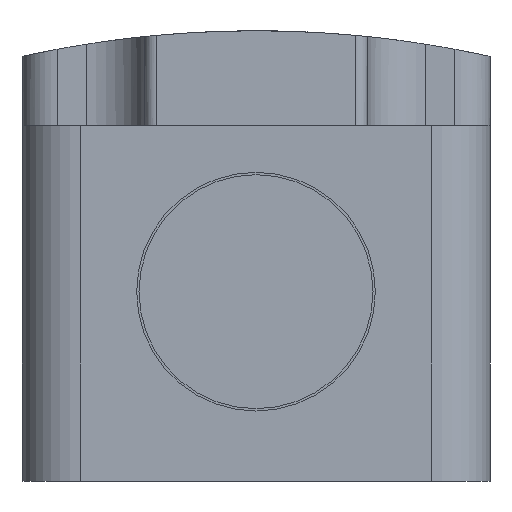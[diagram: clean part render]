
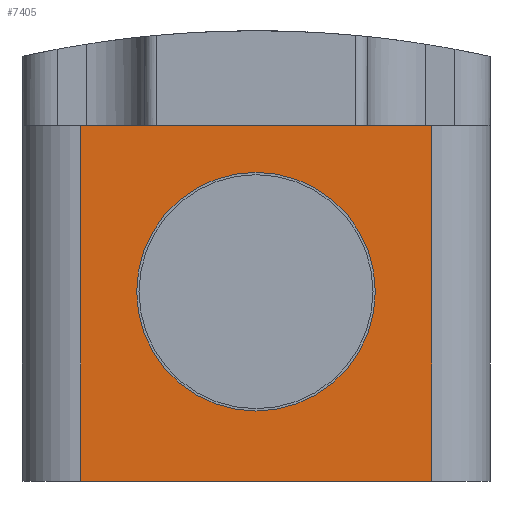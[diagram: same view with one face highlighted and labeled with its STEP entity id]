
A CAD part, front view. The second image highlights one B-rep face of the part: STEP entity #7405.
In plain terms, the highlighted planar face has unit normal (0, -1, 0).
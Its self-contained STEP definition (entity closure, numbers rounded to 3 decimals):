
#176 = AXIS2_PLACEMENT_3D ( 'NONE', #7772, #17473, #9214 ) ;
#244 = ORIENTED_EDGE ( 'NONE', *, *, #2194, .T. ) ;
#260 = EDGE_CURVE ( 'NONE', #10775, #13907, #2853, .T. ) ;
#472 = ORIENTED_EDGE ( 'NONE', *, *, #3886, .F. ) ;
#868 = DIRECTION ( 'NONE',  ( 1., 0., 0. ) ) ;
#1095 = CIRCLE ( 'NONE', #17822, 10.2 ) ;
#1963 = VECTOR ( 'NONE', #12411, 1000. ) ;
#2088 = EDGE_CURVE ( 'NONE', #16360, #8824, #1095, .T. ) ;
#2194 = EDGE_CURVE ( 'NONE', #8390, #13907, #14134, .T. ) ;
#2630 = CARTESIAN_POINT ( 'NONE',  ( 0., -66., 0. ) ) ;
#2853 = LINE ( 'NONE', #14100, #1963 ) ;
#2992 = CARTESIAN_POINT ( 'NONE',  ( 20., -66., -16.2 ) ) ;
#3886 = EDGE_CURVE ( 'NONE', #8824, #16360, #12843, .T. ) ;
#4027 = DIRECTION ( 'NONE',  ( 0., 0., -1. ) ) ;
#4693 = FACE_OUTER_BOUND ( 'NONE', #16791, .T. ) ;
#4902 = LINE ( 'NONE', #9137, #15117 ) ;
#5085 = CARTESIAN_POINT ( 'NONE',  ( -15., -66., 14.2 ) ) ;
#5840 = PLANE ( 'NONE',  #6018 ) ;
#6018 = AXIS2_PLACEMENT_3D ( 'NONE', #2992, #15561, #7253 ) ;
#7124 = CARTESIAN_POINT ( 'NONE',  ( -15., -66., -16.2 ) ) ;
#7253 = DIRECTION ( 'NONE',  ( 0., 0., -1. ) ) ;
#7405 = ADVANCED_FACE ( 'NONE', ( #15346, #4693 ), #5840, .T. ) ;
#7669 = CARTESIAN_POINT ( 'NONE',  ( -15., -66., -16.2 ) ) ;
#7772 = CARTESIAN_POINT ( 'NONE',  ( 0., -66., 0. ) ) ;
#7826 = CARTESIAN_POINT ( 'NONE',  ( 0., -66., -10.2 ) ) ;
#8390 = VERTEX_POINT ( 'NONE', #16965 ) ;
#8708 = CARTESIAN_POINT ( 'NONE',  ( 0., -66., 10.2 ) ) ;
#8824 = VERTEX_POINT ( 'NONE', #7826 ) ;
#9053 = ORIENTED_EDGE ( 'NONE', *, *, #260, .F. ) ;
#9122 = DIRECTION ( 'NONE',  ( 0., 0., -1. ) ) ;
#9137 = CARTESIAN_POINT ( 'NONE',  ( 20., -66., -16.2 ) ) ;
#9214 = DIRECTION ( 'NONE',  ( 0., 0., -1. ) ) ;
#10533 = ORIENTED_EDGE ( 'NONE', *, *, #13845, .T. ) ;
#10775 = VERTEX_POINT ( 'NONE', #5085 ) ;
#11235 = EDGE_LOOP ( 'NONE', ( #472, #16130 ) ) ;
#11378 = VECTOR ( 'NONE', #15442, 1000. ) ;
#11656 = ORIENTED_EDGE ( 'NONE', *, *, #14281, .T. ) ;
#12408 = DIRECTION ( 'NONE',  ( 0., -1., 0. ) ) ;
#12411 = DIRECTION ( 'NONE',  ( 1., 0., 0. ) ) ;
#12843 = CIRCLE ( 'NONE', #176, 10.2 ) ;
#13845 = EDGE_CURVE ( 'NONE', #15416, #8390, #4902, .T. ) ;
#13907 = VERTEX_POINT ( 'NONE', #17756 ) ;
#14031 = LINE ( 'NONE', #7669, #17717 ) ;
#14100 = CARTESIAN_POINT ( 'NONE',  ( 20., -66., 14.2 ) ) ;
#14134 = LINE ( 'NONE', #16787, #11378 ) ;
#14281 = EDGE_CURVE ( 'NONE', #10775, #15416, #14031, .T. ) ;
#15117 = VECTOR ( 'NONE', #868, 1000. ) ;
#15346 = FACE_BOUND ( 'NONE', #11235, .T. ) ;
#15416 = VERTEX_POINT ( 'NONE', #7124 ) ;
#15442 = DIRECTION ( 'NONE',  ( 0., 0., 1. ) ) ;
#15561 = DIRECTION ( 'NONE',  ( 0., -1., 0. ) ) ;
#16130 = ORIENTED_EDGE ( 'NONE', *, *, #2088, .F. ) ;
#16360 = VERTEX_POINT ( 'NONE', #8708 ) ;
#16787 = CARTESIAN_POINT ( 'NONE',  ( 15., -66., -16.2 ) ) ;
#16791 = EDGE_LOOP ( 'NONE', ( #10533, #244, #9053, #11656 ) ) ;
#16965 = CARTESIAN_POINT ( 'NONE',  ( 15., -66., -16.2 ) ) ;
#17473 = DIRECTION ( 'NONE',  ( 0., -1., 0. ) ) ;
#17717 = VECTOR ( 'NONE', #9122, 1000. ) ;
#17756 = CARTESIAN_POINT ( 'NONE',  ( 15., -66., 14.2 ) ) ;
#17822 = AXIS2_PLACEMENT_3D ( 'NONE', #2630, #12408, #4027 ) ;
